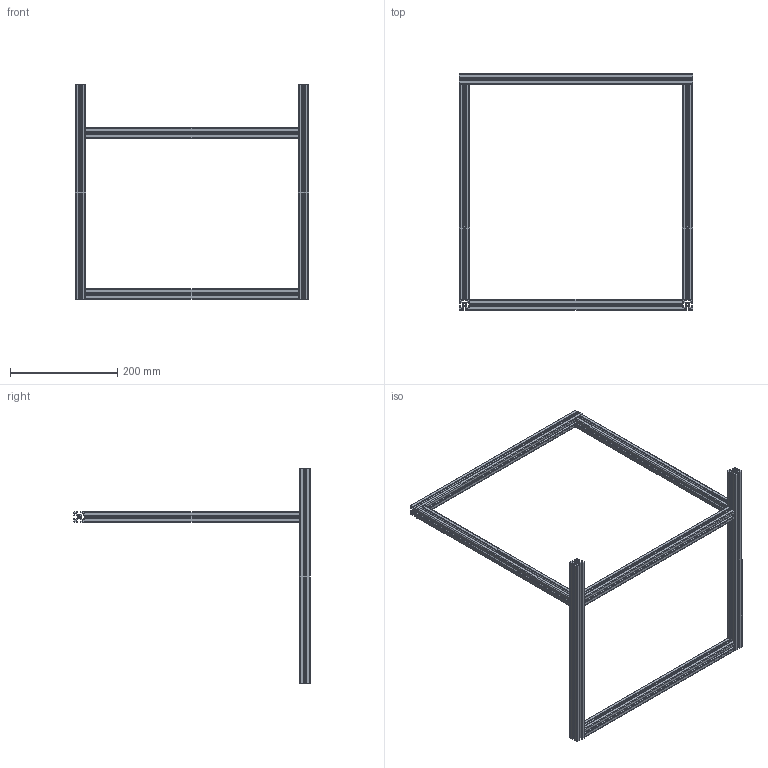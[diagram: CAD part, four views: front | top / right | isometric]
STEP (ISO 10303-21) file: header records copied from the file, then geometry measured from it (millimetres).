
FILE_DESCRIPTION (( 'STEP AP203' ), '1' );
FILE_NAME ('BackgroundFrame.STEP', '2025-03-11T00:33:58', ( '' ), ( '' ), 'SwSTEP 2.0', 'SolidWorks 2024', '' );
FILE_SCHEMA (( 'CONFIG_CONTROL_DESIGN' ));
Length unit declared in the file: millimetre
Products named in the file (1): BackgroundFrame
Bounding box: 435 x 440 x 400 mm (x, y, z)
Volume: 553466.9 mm3; surface area: 484112.8 mm2
Topology: 7 solids, 7 shells, 546 faces, 1596 edges, 1064 vertices
Faces by surface type: cylinder 280, plane 266
Entity records: 18351 total; most frequent: DIRECTION 3250, CARTESIAN_POINT 3207, ORIENTED_EDGE 3192, EDGE_CURVE 1596, AXIS2_PLACEMENT_3D 1107, VERTEX_POINT 1064, VECTOR 1036, LINE 1036
